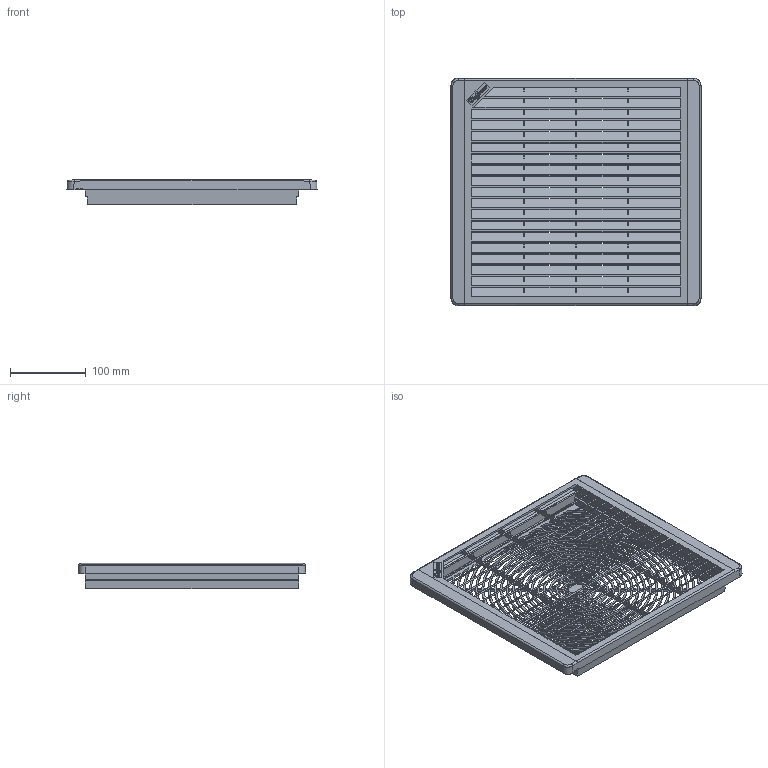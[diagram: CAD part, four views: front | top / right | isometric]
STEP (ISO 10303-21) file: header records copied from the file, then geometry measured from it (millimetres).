
FILE_DESCRIPTION(( 'STEP AP214 file generated by I-DEAS Master Series'),'2;1');
FILE_NAME('D:\a00150\t-ep10.stp','2002-06-05T11:00:59',('A00150'),( 'unspecified'),'I-DEAS Master Series 7m2 : Design', 'I-DEAS Master Series 7m2 : Design','unspecified');
FILE_SCHEMA(('AUTOMOTIVE_DESIGN_CC2 { 1 2 10303 214 -1 1 5 3 }'));
Length unit declared in the file: inch
Products named in the file (3): 10_inch_pkg_bbs; 87555494; 87559981
Assembly tree (2 placements, depth 2):
  10_inch_pkg_bbs
    87555494
    87559981
Bounding box: 329.82 x 299.97 x 33.55 mm (x, y, z)
Volume: 412873.1 mm3; surface area: 479703.6 mm2
Topology: 2 solids, 2 shells, 2185 faces, 6468 edges, 4259 vertices
Faces by surface type: bspline 2185
Entity records: 77856 total; most frequent: CARTESIAN_POINT 41246, ORIENTED_EDGE 12928, EDGE_CURVE 6464, VERTEX_POINT 4259, EDGE_LOOP 2653, B_SPLINE_CURVE_WITH_KNOTS 2222, FACE_OUTER_BOUND 2185, ADVANCED_FACE 2185
